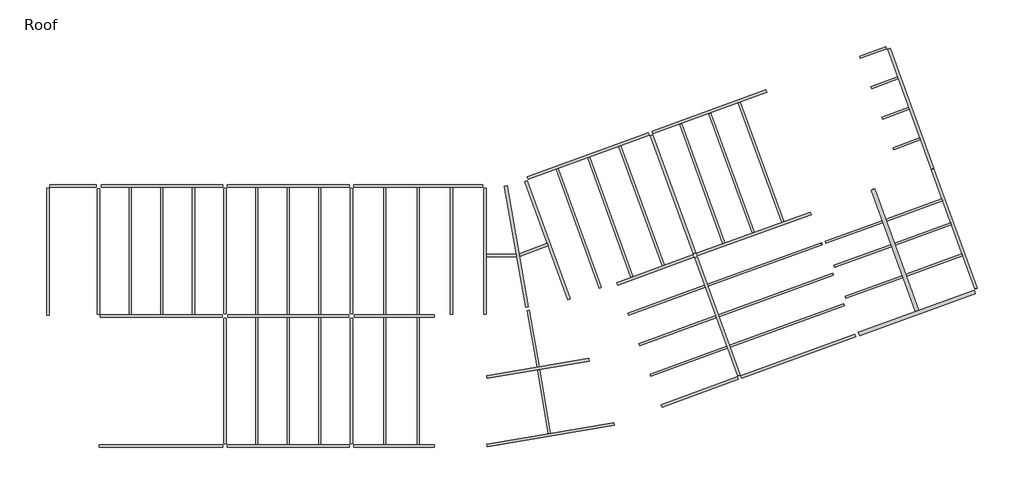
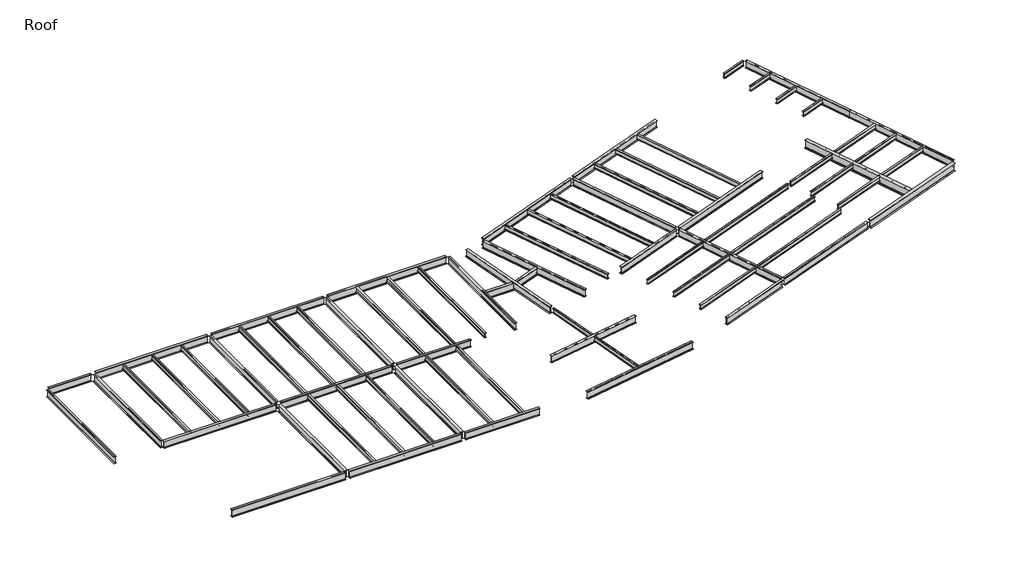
# One storey: 73 beams.
"""IFC4 building model written with IfcOpenShell, lengths in millimetres."""

from ifc_helpers import new_model, si_unit, origin, place, context, project, spatial, transform, mapped, element, save
from components import ub_universal_beams_ub305x127x37_f823aa85, ub_universal_beams_ub305x127x37_cdbcbb51, ub_universal_beams_ub305x127x37_8d1efc97, ub_universal_beams_ub305x127x37_2b7a043a, ub_universal_beams_ub305x127x37_8d2b0bf5, ub_universal_beams_ub305x127x37_16a75a32, ub_universal_beams_ub305x127x37_b9a7bbe5, ub_universal_beams_ub305x127x37_60794b88, ub_universal_beams_ub305x127x37_0c249d50, ub_universal_beams_ub305x127x37_5bb895c1, ub_universal_beams_ub305x127x37_83364cc9, ub_universal_beams_ub305x127x37_55dbae19, ub_universal_beams_ub457x152x67_de37d5a7, ub_universal_beams_ub457x152x67_a95554c7, ub_universal_beams_ub457x152x67_885cc86f, ub_universal_beams_ub457x152x67_c84566a2, ub_universal_beams_ub457x152x67_4841b023, ub_universal_beams_ub457x152x67_20791346, ub_universal_beams_ub457x152x67_59459dd6, ub_universal_beams_ub457x152x67_568b5c51, ub_universal_beams_ub457x152x67_feb0265b, ub_universal_beams_ub457x152x67_78ad538f, ub_universal_beams_ub457x152x67_801fcbf0, ub_universal_beams_ub457x152x67_7192e0ee, ub_universal_beams_ub457x152x67_e0a47d06, ub_universal_beams_ub457x152x67_f5dc209c, ub_universal_beams_ub457x152x67_f862a4b8, ub_universal_beams_ub457x152x67_7b4bcd9a, ub_universal_beams_ub457x152x67_43212cfb, ub_universal_beams_ub457x152x67_a9511354, ub_universal_beams_ub457x152x67_e915e172, ub_universal_beams_ub457x152x67_4370fdf8, ub_universal_beams_ub457x152x67_66b76362, ub_universal_beams_ub457x152x67_d54c9229, ub_universal_beams_ub457x152x67_7b3b5f84, ub_universal_beams_ub457x152x67_3b3b240f, ub_universal_beams_ub457x152x67_5d27a3bd, ub_universal_beams_ub457x152x67_54a4210b, ub_universal_beams_ub457x152x67_30e2d671, ub_universal_beams_ub533x210x82_8ec85ef7, ub_universal_beams_ub533x210x82_0fc11a2d

model = new_model("IFC4")

# Units and contexts
model_context = context("Model", 3, world=origin())
ifc_project = project(units=[si_unit("LENGTHUNIT", "METRE", prefix="MILLI")], contexts=[model_context])

# Site, building, storey
site = spatial("IfcSite", under=ifc_project)
building = spatial("IfcBuilding", under=site)
storey = spatial("IfcBuildingStorey", under=building, Name="Roof", Elevation=11700.0)

# Beams
placement = place(None, origin())
ub_universal_beams_ub305x127x37_shape = ub_universal_beams_ub305x127x37_f823aa85(model_context)
element("IfcBeam", 1, ObjectType="UB-Universal Beams : UB305x127x37", at=placement, inside=storey, context=model_context, shape_type="MappedRepresentation", body=[
    mapped(ub_universal_beams_ub305x127x37_shape, transform((9887.2000022, 11613.2000005, 11547.8), x_axis=(0.0, 1.0, 0.0), y_axis=(-1.0, 0.0, 0.0), z_axis=(0.0, 0.0, 1.0))),
])
element("IfcBeam", 2, ObjectType="UB-Universal Beams : UB305x127x37", at=placement, inside=storey, context=model_context, shape_type="MappedRepresentation", body=[
    mapped(ub_universal_beams_ub305x127x37_shape, transform((11712.2000022, 11613.2000005, 11547.8), x_axis=(0.0, 1.0, 0.0), y_axis=(-1.0, 0.0, 0.0), z_axis=(0.0, 0.0, 1.0))),
])
element("IfcBeam", 3, ObjectType="UB-Universal Beams : UB305x127x37", at=placement, inside=storey, context=model_context, shape_type="MappedRepresentation", body=[
    mapped(ub_universal_beams_ub305x127x37_shape, transform((13537.2000023, 11613.2000005, 11547.8), x_axis=(0.0, 1.0, 0.0), y_axis=(-1.0, 0.0, 0.0), z_axis=(0.0, 0.0, 1.0))),
])
element("IfcBeam", 4, ObjectType="UB-Universal Beams : UB305x127x37", at=placement, inside=storey, context=model_context, shape_type="MappedRepresentation", body=[
    mapped(ub_universal_beams_ub305x127x37_shape, transform((17187.2000023, 11613.2000005, 11547.8), x_axis=(0.0, 1.0, 0.0), y_axis=(-1.0, 0.0, 0.0), z_axis=(0.0, 0.0, 1.0))),
])
element("IfcBeam", 5, ObjectType="UB-Universal Beams : UB305x127x37", at=placement, inside=storey, context=model_context, shape_type="MappedRepresentation", body=[
    mapped(ub_universal_beams_ub305x127x37_shape, transform((19012.2000023, 11613.2000005, 11547.8), x_axis=(0.0, 1.0, 0.0), y_axis=(-1.0, 0.0, 0.0), z_axis=(0.0, 0.0, 1.0))),
])
element("IfcBeam", 6, ObjectType="UB-Universal Beams : UB305x127x37", at=placement, inside=storey, context=model_context, shape_type="MappedRepresentation", body=[
    mapped(ub_universal_beams_ub305x127x37_shape, transform((20837.2000022, 11613.2000005, 11547.8), x_axis=(0.0, 1.0, 0.0), y_axis=(-1.0, 0.0, 0.0), z_axis=(0.0, 0.0, 1.0))),
])
element("IfcBeam", 7, ObjectType="UB-Universal Beams : UB305x127x37", at=placement, inside=storey, context=model_context, shape_type="MappedRepresentation", body=[
    mapped(ub_universal_beams_ub305x127x37_shape, transform((24587.2000022, 11613.2000005, 11547.8), x_axis=(0.0, 1.0, 0.0), y_axis=(-1.0, 0.0, 0.0), z_axis=(0.0, 0.0, 1.0))),
])
element("IfcBeam", 8, ObjectType="UB-Universal Beams : UB305x127x37", at=placement, inside=storey, context=model_context, shape_type="MappedRepresentation", body=[
    mapped(ub_universal_beams_ub305x127x37_shape, transform((26512.2000022, 11613.2000005, 11547.8), x_axis=(0.0, 1.0, 0.0), y_axis=(-1.0, 0.0, 0.0), z_axis=(0.0, 0.0, 1.0))),
])
element("IfcBeam", 9, ObjectType="UB-Universal Beams : UB305x127x37", at=placement, inside=storey, context=model_context, shape_type="MappedRepresentation", body=[
    mapped(ub_universal_beams_ub305x127x37_shape, transform((17187.2000022, 4113.2000005, 11547.8), x_axis=(0.0, 1.0, 0.0), y_axis=(-1.0, 0.0, 0.0), z_axis=(0.0, 0.0, 1.0))),
])
element("IfcBeam", 10, ObjectType="UB-Universal Beams : UB305x127x37", at=placement, inside=storey, context=model_context, shape_type="MappedRepresentation", body=[
    mapped(ub_universal_beams_ub305x127x37_shape, transform((19012.2000022, 4113.2000005, 11547.8), x_axis=(0.0, 1.0, 0.0), y_axis=(-1.0, 0.0, 0.0), z_axis=(0.0, 0.0, 1.0))),
])
element("IfcBeam", 11, ObjectType="UB-Universal Beams : UB305x127x37", at=placement, inside=storey, context=model_context, shape_type="MappedRepresentation", body=[
    mapped(ub_universal_beams_ub305x127x37_shape, transform((20837.2000022, 4113.2000005, 11547.8), x_axis=(0.0, 1.0, 0.0), y_axis=(-1.0, 0.0, 0.0), z_axis=(0.0, 0.0, 1.0))),
])
element("IfcBeam", 12, ObjectType="UB-Universal Beams : UB305x127x37", at=placement, inside=storey, context=model_context, shape_type="MappedRepresentation", body=[
    mapped(ub_universal_beams_ub305x127x37_shape, transform((24587.2000022, 4113.2000004, 11547.8), x_axis=(0.0, 1.0, 0.0), y_axis=(-1.0, 0.0, 0.0), z_axis=(0.0, 0.0, 1.0))),
])
element("IfcBeam", 13, ObjectType="UB-Universal Beams : UB305x127x37", at=placement, inside=storey, context=model_context, shape_type="MappedRepresentation", body=[
    mapped(ub_universal_beams_ub305x127x37_shape, transform((26512.2000022, 4113.2000004, 11547.8), x_axis=(0.0, 1.0, 0.0), y_axis=(-1.0, 0.0, 0.0), z_axis=(0.0, 0.0, 1.0))),
])
element("IfcBeam", 14, ObjectType="UB-Universal Beams : UB305x127x37", at=placement, inside=storey, context=model_context, shape_type="MappedRepresentation", body=[
    mapped(ub_universal_beams_ub305x127x37_shape, transform((39409.0148654, 14226.6858637, 11547.8), x_axis=(0.34202014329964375, -0.9396926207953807, 0.0), y_axis=(0.9396926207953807, 0.34202014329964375, 0.0), z_axis=(0.0, 0.0, 1.0))),
])
element("IfcBeam", 15, ObjectType="UB-Universal Beams : UB305x127x37", at=placement, inside=storey, context=model_context, shape_type="MappedRepresentation", body=[
    mapped(ub_universal_beams_ub305x127x37_shape, transform((37600.1065704, 13568.2970878, 11547.8), x_axis=(0.34202014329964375, -0.9396926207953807, 0.0), y_axis=(0.9396926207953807, 0.34202014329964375, 0.0), z_axis=(0.0, 0.0, 1.0))),
])
element("IfcBeam", 16, ObjectType="UB-Universal Beams : UB305x127x37", at=placement, inside=storey, context=model_context, shape_type="MappedRepresentation", body=[
    mapped(ub_universal_beams_ub305x127x37_shape, transform((42915.2429568, 15502.8485233, 11547.8), x_axis=(-0.3420201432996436, 0.9396926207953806, 0.0), y_axis=(-0.9396926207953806, -0.3420201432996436, 0.0), z_axis=(0.0, 0.0, 1.0))),
])
element("IfcBeam", 17, ObjectType="UB-Universal Beams : UB305x127x37", at=placement, inside=storey, context=model_context, shape_type="MappedRepresentation", body=[
    mapped(ub_universal_beams_ub305x127x37_shape, transform((44612.5627531, 16120.6224071, 11547.8), x_axis=(-0.34202014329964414, 0.9396926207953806, 0.0), y_axis=(-0.9396926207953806, -0.34202014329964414, 0.0), z_axis=(0.0, 0.0, 1.0))),
])
element("IfcBeam", 18, ObjectType="UB-Universal Beams : UB305x127x37", at=placement, inside=storey, context=model_context, shape_type="MappedRepresentation", body=[
    mapped(ub_universal_beams_ub305x127x37_shape, transform((46309.8825494, 16738.396291, 11547.8), x_axis=(-0.34202014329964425, 0.9396926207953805, 0.0), y_axis=(-0.9396926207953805, -0.34202014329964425, 0.0), z_axis=(0.0, 0.0, 1.0))),
])
ub_universal_beams_ub305x127x37_2_shape = ub_universal_beams_ub305x127x37_cdbcbb51(model_context)
element("IfcBeam", 19, ObjectType="UB-Universal Beams : UB305x127x37", at=placement, inside=storey, context=model_context, shape_type="MappedRepresentation", body=[
    mapped(ub_universal_beams_ub305x127x37_2_shape, transform((28437.2000022, 11613.2000005, 11547.8), x_axis=(0.0, 1.0, 0.0), y_axis=(-1.0, 0.0, 0.0), z_axis=(0.0, 0.0, 1.0))),
])
ub_universal_beams_ub305x127x37_3_shape = ub_universal_beams_ub305x127x37_8d1efc97(model_context)
element("IfcBeam", 20, ObjectType="UB-Universal Beams : UB305x127x37", at=placement, inside=storey, context=model_context, shape_type="MappedRepresentation", body=[
    mapped(ub_universal_beams_ub305x127x37_3_shape, transform((35791.1982754, 12909.908312, 11547.8), x_axis=(0.3420201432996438, -0.9396926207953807, 0.0), y_axis=(0.9396926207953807, 0.3420201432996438, 0.0), z_axis=(0.0, 0.0, 1.0))),
])
ub_universal_beams_ub305x127x37_4_shape = ub_universal_beams_ub305x127x37_2b7a043a(model_context)
element("IfcBeam", 21, ObjectType="UB-Universal Beams : UB305x127x37", at=placement, inside=storey, context=model_context, shape_type="MappedRepresentation", body=[
    mapped(ub_universal_beams_ub305x127x37_4_shape, transform((42122.1150828, 5237.5069684, 11547.8), x_axis=(-0.939692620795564, -0.3420201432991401, 0.0), y_axis=(0.3420201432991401, -0.939692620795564, 0.0), z_axis=(0.0, 0.0, 1.0))),
])
element("IfcBeam", 22, ObjectType="UB-Universal Beams : UB305x127x37", at=placement, inside=storey, context=model_context, shape_type="MappedRepresentation", body=[
    mapped(ub_universal_beams_ub305x127x37_4_shape, transform((41480.8273141, 6999.4306323, 11547.8), x_axis=(-0.9396926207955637, -0.3420201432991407, 0.0), y_axis=(0.3420201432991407, -0.9396926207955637, 0.0), z_axis=(0.0, 0.0, 1.0))),
])
element("IfcBeam", 23, ObjectType="UB-Universal Beams : UB305x127x37", at=placement, inside=storey, context=model_context, shape_type="MappedRepresentation", body=[
    mapped(ub_universal_beams_ub305x127x37_4_shape, transform((40839.5395455, 8761.3542963, 11547.8), x_axis=(-0.939692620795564, -0.3420201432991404, 0.0), y_axis=(0.3420201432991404, -0.939692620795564, 0.0), z_axis=(0.0, 0.0, 1.0))),
])
ub_universal_beams_ub305x127x37_5_shape = ub_universal_beams_ub305x127x37_8d2b0bf5(model_context)
element("IfcBeam", 24, ObjectType="UB-Universal Beams : UB305x127x37", at=placement, inside=storey, context=model_context, shape_type="MappedRepresentation", body=[
    mapped(ub_universal_beams_ub305x127x37_5_shape, transform((46536.4260592, 10834.8514152, 11547.8), x_axis=(0.9396926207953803, 0.342020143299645, 0.0), y_axis=(-0.342020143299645, 0.9396926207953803, 0.0), z_axis=(0.0, 0.0, 1.0))),
])
element("IfcBeam", 25, ObjectType="UB-Universal Beams : UB305x127x37", at=placement, inside=storey, context=model_context, shape_type="MappedRepresentation", body=[
    mapped(ub_universal_beams_ub305x127x37_5_shape, transform((47177.7138279, 9072.9277512, 11547.8), x_axis=(0.93969262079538, 0.34202014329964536, 0.0), y_axis=(-0.34202014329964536, 0.93969262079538, 0.0), z_axis=(0.0, 0.0, 1.0))),
])
element("IfcBeam", 26, ObjectType="UB-Universal Beams : UB305x127x37", at=placement, inside=storey, context=model_context, shape_type="MappedRepresentation", body=[
    mapped(ub_universal_beams_ub305x127x37_5_shape, transform((47819.0015966, 7311.0040872, 11547.8), x_axis=(0.9396926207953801, 0.3420201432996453, 0.0), y_axis=(-0.3420201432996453, 0.9396926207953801, 0.0), z_axis=(0.0, 0.0, 1.0))),
])
ub_universal_beams_ub305x127x37_6_shape = ub_universal_beams_ub305x127x37_16a75a32(model_context)
element("IfcBeam", 27, ObjectType="UB-Universal Beams : UB305x127x37", at=placement, inside=storey, context=model_context, shape_type="MappedRepresentation", body=[
    mapped(ub_universal_beams_ub305x127x37_6_shape, transform((52185.7228693, 11321.365084, 11547.8), x_axis=(0.9396926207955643, 0.3420201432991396, 0.0), y_axis=(-0.3420201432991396, 0.9396926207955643, 0.0), z_axis=(0.0, 0.0, 1.0))),
])
element("IfcBeam", 28, ObjectType="UB-Universal Beams : UB305x127x37", at=placement, inside=storey, context=model_context, shape_type="MappedRepresentation", body=[
    mapped(ub_universal_beams_ub305x127x37_6_shape, transform((51681.2431579, 12707.4116997, 11547.8), x_axis=(0.9396926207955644, 0.34202014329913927, 0.0), y_axis=(-0.34202014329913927, 0.9396926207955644, 0.0), z_axis=(0.0, 0.0, 1.0))),
])
ub_universal_beams_ub305x127x37_7_shape = ub_universal_beams_ub305x127x37_b9a7bbe5(model_context)
element("IfcBeam", 29, ObjectType="UB-Universal Beams : UB305x127x37", at=placement, inside=storey, context=model_context, shape_type="MappedRepresentation", body=[
    mapped(ub_universal_beams_ub305x127x37_7_shape, transform((55650.8394085, 12582.5643624, 11547.8), x_axis=(0.939692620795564, 0.34202014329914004, 0.0), y_axis=(-0.34202014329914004, 0.939692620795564, 0.0), z_axis=(0.0, 0.0, 1.0))),
])
element("IfcBeam", 30, ObjectType="UB-Universal Beams : UB305x127x37", at=placement, inside=storey, context=model_context, shape_type="MappedRepresentation", body=[
    mapped(ub_universal_beams_ub305x127x37_7_shape, transform((56300.6776807, 10797.1483829, 11547.8), x_axis=(0.9396926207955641, 0.3420201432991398, 0.0), y_axis=(-0.3420201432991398, 0.9396926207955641, 0.0), z_axis=(0.0, 0.0, 1.0))),
])
element("IfcBeam", 31, ObjectType="UB-Universal Beams : UB305x127x37", at=placement, inside=storey, context=model_context, shape_type="MappedRepresentation", body=[
    mapped(ub_universal_beams_ub305x127x37_7_shape, transform((55146.3596971, 13968.6109781, 11547.8), x_axis=(0.9396926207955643, 0.34202014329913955, 0.0), y_axis=(-0.34202014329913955, 0.9396926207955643, 0.0), z_axis=(0.0, 0.0, 1.0))),
])
ub_universal_beams_ub305x127x37_8_shape = ub_universal_beams_ub305x127x37_60794b88(model_context)
element("IfcBeam", 32, ObjectType="UB-Universal Beams : UB305x127x37", at=placement, inside=storey, context=model_context, shape_type="MappedRepresentation", body=[
    mapped(ub_universal_beams_ub305x127x37_8_shape, transform((53431.3248942, 21325.7226526, 11547.8), x_axis=(-0.939692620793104, -0.34202014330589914, 0.0), y_axis=(0.34202014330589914, -0.939692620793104, 0.0), z_axis=(0.0, 0.0, 1.0))),
])
element("IfcBeam", 33, ObjectType="UB-Universal Beams : UB305x127x37", at=placement, inside=storey, context=model_context, shape_type="MappedRepresentation", body=[
    mapped(ub_universal_beams_ub305x127x37_8_shape, transform((54072.6126629, 19563.7989886, 11547.8), x_axis=(-0.939692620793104, -0.3420201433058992, 0.0), y_axis=(0.3420201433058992, -0.939692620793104, 0.0), z_axis=(0.0, 0.0, 1.0))),
])
element("IfcBeam", 34, ObjectType="UB-Universal Beams : UB305x127x37", at=placement, inside=storey, context=model_context, shape_type="MappedRepresentation", body=[
    mapped(ub_universal_beams_ub305x127x37_8_shape, transform((54713.9004316, 17801.8753247, 11547.8), x_axis=(-0.939692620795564, -0.34202014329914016, 0.0), y_axis=(0.34202014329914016, -0.939692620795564, 0.0), z_axis=(0.0, 0.0, 1.0))),
])
ub_universal_beams_ub305x127x37_9_shape = ub_universal_beams_ub305x127x37_0c249d50(model_context)
element("IfcBeam", 35, ObjectType="UB-Universal Beams : UB305x127x37", at=placement, inside=storey, context=model_context, shape_type="MappedRepresentation", body=[
    mapped(ub_universal_beams_ub305x127x37_9_shape, transform((52835.5611416, 9535.9491045, 11547.8), x_axis=(-0.9396926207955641, -0.34202014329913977, 0.0), y_axis=(0.34202014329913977, -0.9396926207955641, 0.0), z_axis=(0.0, 0.0, 1.0))),
])
ub_universal_beams_ub305x127x37_10_shape = ub_universal_beams_ub305x127x37_5bb895c1(model_context)
element("IfcBeam", 36, ObjectType="UB-Universal Beams : UB305x127x37", at=placement, inside=storey, context=model_context, shape_type="MappedRepresentation", body=[
    mapped(ub_universal_beams_ub305x127x37_10_shape, transform((52790.0371255, 23087.6463166, 11547.8), x_axis=(-0.939692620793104, -0.34202014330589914, 0.0), y_axis=(0.34202014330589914, -0.939692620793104, 0.0), z_axis=(0.0, 0.0, 1.0))),
])
ub_universal_beams_ub305x127x37_11_shape = ub_universal_beams_ub305x127x37_83364cc9(model_context)
element("IfcBeam", 37, ObjectType="UB-Universal Beams : UB305x127x37", at=placement, inside=storey, context=model_context, shape_type="MappedRepresentation", body=[
    mapped(ub_universal_beams_ub305x127x37_11_shape, transform((33777.5903073, 2919.2792248, 11547.8), x_axis=(-0.16767868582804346, 0.9858417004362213, 0.0), y_axis=(-0.9858417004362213, -0.16767868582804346, 0.0), z_axis=(0.0, 0.0, 1.0))),
])
ub_universal_beams_ub305x127x37_12_shape = ub_universal_beams_ub305x127x37_55dbae19(model_context)
element("IfcBeam", 38, ObjectType="UB-Universal Beams : UB305x127x37", at=placement, inside=storey, context=model_context, shape_type="MappedRepresentation", body=[
    mapped(ub_universal_beams_ub305x127x37_12_shape, transform((33147.2993723, 6561.7719088, 11547.8), x_axis=(-0.17364817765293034, 0.9848077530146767, 0.0), y_axis=(-0.9848077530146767, -0.17364817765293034, 0.0), z_axis=(0.0, 0.0, 1.0))),
])
ub_universal_beams_ub457x152x67_shape = ub_universal_beams_ub457x152x67_de37d5a7(model_context)
element("IfcBeam", 39, ObjectType="UB-Universal Beams : UB457x152x67", at=placement, inside=storey, context=model_context, shape_type="MappedRepresentation", body=[
    mapped(ub_universal_beams_ub457x152x67_shape, transform((26512.2000022, 15363.2000005, 11471.0), x_axis=(1.0, 0.0, 0.0), y_axis=(0.0, 1.0, 0.0), z_axis=(0.0, 0.0, 1.0))),
])
ub_universal_beams_ub457x152x67_2_shape = ub_universal_beams_ub457x152x67_a95554c7(model_context)
element("IfcBeam", 40, ObjectType="UB-Universal Beams : UB457x152x67", at=placement, inside=storey, context=model_context, shape_type="MappedRepresentation", body=[
    mapped(ub_universal_beams_ub457x152x67_2_shape, transform((19012.2000023, 15363.2000005, 11471.0), x_axis=(1.0, 0.0, 0.0), y_axis=(0.0, 1.0, 0.0), z_axis=(0.0, 0.0, 1.0))),
])
element("IfcBeam", 41, ObjectType="UB-Universal Beams : UB457x152x67", at=placement, inside=storey, context=model_context, shape_type="MappedRepresentation", body=[
    mapped(ub_universal_beams_ub457x152x67_2_shape, transform((19012.2000022, 363.2000005, 11471.0), x_axis=(1.0, 0.0, 0.0), y_axis=(0.0, 1.0, 0.0), z_axis=(0.0, 0.0, 1.0))),
])
ub_universal_beams_ub457x152x67_3_shape = ub_universal_beams_ub457x152x67_885cc86f(model_context)
element("IfcBeam", 42, ObjectType="UB-Universal Beams : UB457x152x67", at=placement, inside=storey, context=model_context, shape_type="MappedRepresentation", body=[
    mapped(ub_universal_beams_ub457x152x67_3_shape, transform((11674.7000023, 363.2000005, 11471.0), x_axis=(-1.0, 0.0, 0.0), y_axis=(0.0, -1.0, 0.0), z_axis=(0.0, 0.0, 1.0))),
])
ub_universal_beams_ub457x152x67_4_shape = ub_universal_beams_ub457x152x67_c84566a2(model_context)
element("IfcBeam", 43, ObjectType="UB-Universal Beams : UB457x152x67", at=placement, inside=storey, context=model_context, shape_type="MappedRepresentation", body=[
    mapped(ub_universal_beams_ub457x152x67_4_shape, transform((19012.2000023, 7863.2000004, 11471.0), x_axis=(1.0, 0.0, 0.0), y_axis=(0.0, 1.0, 0.0), z_axis=(0.0, 0.0, 1.0))),
])
ub_universal_beams_ub457x152x67_5_shape = ub_universal_beams_ub457x152x67_4841b023(model_context)
element("IfcBeam", 44, ObjectType="UB-Universal Beams : UB457x152x67", at=placement, inside=storey, context=model_context, shape_type="MappedRepresentation", body=[
    mapped(ub_universal_beams_ub457x152x67_5_shape, transform((25112.2000025, 7863.2000004, 11471.0), x_axis=(1.0, 0.0, 0.0), y_axis=(0.0, 1.0, 0.0), z_axis=(0.0, 0.0, 1.0))),
])
ub_universal_beams_ub457x152x67_6_shape = ub_universal_beams_ub457x152x67_20791346(model_context)
element("IfcBeam", 45, ObjectType="UB-Universal Beams : UB457x152x67", at=placement, inside=storey, context=model_context, shape_type="MappedRepresentation", body=[
    mapped(ub_universal_beams_ub457x152x67_6_shape, transform((25112.2000025, 363.2000005, 11471.0), x_axis=(1.0, 0.0, 0.0), y_axis=(0.0, 1.0, 0.0), z_axis=(0.0, 0.0, 1.0))),
])
ub_universal_beams_ub457x152x67_7_shape = ub_universal_beams_ub457x152x67_59459dd6(model_context)
element("IfcBeam", 46, ObjectType="UB-Universal Beams : UB457x152x67", at=placement, inside=storey, context=model_context, shape_type="MappedRepresentation", body=[
    mapped(ub_universal_beams_ub457x152x67_7_shape, transform((15362.2000023, 4113.2000005, 11471.0), x_axis=(0.0, 1.0, 0.0), y_axis=(-1.0, 0.0, 0.0), z_axis=(0.0, 0.0, 1.0))),
])
element("IfcBeam", 47, ObjectType="UB-Universal Beams : UB457x152x67", at=placement, inside=storey, context=model_context, shape_type="MappedRepresentation", body=[
    mapped(ub_universal_beams_ub457x152x67_7_shape, transform((22662.2000022, 4113.2000005, 11471.0), x_axis=(0.0, 1.0, 0.0), y_axis=(-1.0, 0.0, 0.0), z_axis=(0.0, 0.0, 1.0))),
])
ub_universal_beams_ub457x152x67_8_shape = ub_universal_beams_ub457x152x67_568b5c51(model_context)
element("IfcBeam", 48, ObjectType="UB-Universal Beams : UB457x152x67", at=placement, inside=storey, context=model_context, shape_type="MappedRepresentation", body=[
    mapped(ub_universal_beams_ub457x152x67_8_shape, transform((15362.2000023, 11613.2000005, 11471.0), x_axis=(0.0, 1.0, 0.0), y_axis=(-1.0, 0.0, 0.0), z_axis=(0.0, 0.0, 1.0))),
])
element("IfcBeam", 49, ObjectType="UB-Universal Beams : UB457x152x67", at=placement, inside=storey, context=model_context, shape_type="MappedRepresentation", body=[
    mapped(ub_universal_beams_ub457x152x67_8_shape, transform((22662.2000022, 11613.2000005, 11471.0), x_axis=(0.0, 1.0, 0.0), y_axis=(-1.0, 0.0, 0.0), z_axis=(0.0, 0.0, 1.0))),
])
ub_universal_beams_ub457x152x67_9_shape = ub_universal_beams_ub457x152x67_feb0265b(model_context)
element("IfcBeam", 50, ObjectType="UB-Universal Beams : UB457x152x67", at=placement, inside=storey, context=model_context, shape_type="MappedRepresentation", body=[
    mapped(ub_universal_beams_ub457x152x67_9_shape, transform((32191.7898055, 11821.5156209, 11471.0), x_axis=(0.173648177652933, -0.9848077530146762, 0.0), y_axis=(0.9848077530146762, 0.173648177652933, 0.0), z_axis=(0.0, 0.0, 1.0))),
])
ub_universal_beams_ub457x152x67_10_shape = ub_universal_beams_ub457x152x67_78ad538f(model_context)
element("IfcBeam", 51, ObjectType="UB-Universal Beams : UB457x152x67", at=placement, inside=storey, context=model_context, shape_type="MappedRepresentation", body=[
    mapped(ub_universal_beams_ub457x152x67_10_shape, transform((31317.5755278, 11361.2273115, 11471.0), x_axis=(1.0, 0.0, 0.0), y_axis=(0.0, 1.0, 0.0), z_axis=(0.0, 0.0, 1.0))),
])
ub_universal_beams_ub457x152x67_11_shape = ub_universal_beams_ub457x152x67_801fcbf0(model_context)
element("IfcBeam", 52, ObjectType="UB-Universal Beams : UB457x152x67", at=placement, inside=storey, context=model_context, shape_type="MappedRepresentation", body=[
    mapped(ub_universal_beams_ub457x152x67_11_shape, transform((33170.7103845, 11687.9849855, 11471.0), x_axis=(0.9396926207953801, 0.3420201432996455, 0.0), y_axis=(-0.3420201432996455, 0.9396926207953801, 0.0), z_axis=(0.0, 0.0, 1.0))),
])
ub_universal_beams_ub457x152x67_12_shape = ub_universal_beams_ub457x152x67_7192e0ee(model_context)
element("IfcBeam", 53, ObjectType="UB-Universal Beams : UB457x152x67", at=placement, inside=storey, context=model_context, shape_type="MappedRepresentation", body=[
    mapped(ub_universal_beams_ub457x152x67_12_shape, transform((43329.9872158, 19644.4697351, 11471.0), x_axis=(0.9396926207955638, 0.3420201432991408, 0.0), y_axis=(-0.3420201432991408, 0.9396926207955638, 0.0), z_axis=(0.0, 0.0, 1.0))),
])
element("IfcBeam", 54, ObjectType="UB-Universal Beams : UB457x152x67", at=placement, inside=storey, context=model_context, shape_type="MappedRepresentation", body=[
    mapped(ub_universal_beams_ub457x152x67_12_shape, transform((45895.1382905, 12596.7750792, 11471.0), x_axis=(0.9396926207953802, 0.34202014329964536, 0.0), y_axis=(-0.34202014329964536, 0.9396926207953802, 0.0), z_axis=(0.0, 0.0, 1.0))),
])
element("IfcBeam", 55, ObjectType="UB-Universal Beams : UB457x152x67", at=placement, inside=storey, context=model_context, shape_type="MappedRepresentation", body=[
    mapped(ub_universal_beams_ub457x152x67_12_shape, transform((48460.2893652, 5549.0804232, 11471.0), x_axis=(0.9396926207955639, 0.3420201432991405, 0.0), y_axis=(-0.3420201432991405, 0.9396926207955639, 0.0), z_axis=(0.0, 0.0, 1.0))),
])
ub_universal_beams_ub457x152x67_13_shape = ub_universal_beams_ub457x152x67_e0a47d06(model_context)
element("IfcBeam", 56, ObjectType="UB-Universal Beams : UB457x152x67", at=placement, inside=storey, context=model_context, shape_type="MappedRepresentation", body=[
    mapped(ub_universal_beams_ub457x152x67_13_shape, transform((40198.2517768, 10523.2779603, 11471.0), x_axis=(0.9396926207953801, 0.34202014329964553, 0.0), y_axis=(-0.34202014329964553, 0.9396926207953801, 0.0), z_axis=(0.0, 0.0, 1.0))),
])
ub_universal_beams_ub457x152x67_14_shape = ub_universal_beams_ub457x152x67_f5dc209c(model_context)
element("IfcBeam", 57, ObjectType="UB-Universal Beams : UB457x152x67", at=placement, inside=storey, context=model_context, shape_type="MappedRepresentation", body=[
    mapped(ub_universal_beams_ub457x152x67_14_shape, transform((41217.9231605, 14885.0746394, 11471.0), x_axis=(-0.3420201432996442, 0.9396926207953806, 0.0), y_axis=(-0.9396926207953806, -0.3420201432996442, 0.0), z_axis=(0.0, 0.0, 1.0))),
])
element("IfcBeam", 58, ObjectType="UB-Universal Beams : UB457x152x67", at=placement, inside=storey, context=model_context, shape_type="MappedRepresentation", body=[
    mapped(ub_universal_beams_ub457x152x67_14_shape, transform((43783.0742352, 7837.3799835, 11471.0), x_axis=(-0.3420201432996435, 0.939692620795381, 0.0), y_axis=(-0.939692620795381, -0.3420201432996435, 0.0), z_axis=(0.0, 0.0, 1.0))),
])
ub_universal_beams_ub457x152x67_15_shape = ub_universal_beams_ub457x152x67_f862a4b8(model_context)
element("IfcBeam", 59, ObjectType="UB-Universal Beams : UB457x152x67", at=placement, inside=storey, context=model_context, shape_type="MappedRepresentation", body=[
    mapped(ub_universal_beams_ub457x152x67_15_shape, transform((42763.4028515, 3475.5833044, 11471.0), x_axis=(-0.9396926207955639, -0.34202014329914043, 0.0), y_axis=(0.34202014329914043, -0.9396926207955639, 0.0), z_axis=(0.0, 0.0, 1.0))),
])
ub_universal_beams_ub457x152x67_16_shape = ub_universal_beams_ub457x152x67_7b4bcd9a(model_context)
element("IfcBeam", 60, ObjectType="UB-Universal Beams : UB457x152x67", at=placement, inside=storey, context=model_context, shape_type="MappedRepresentation", body=[
    mapped(ub_universal_beams_ub457x152x67_16_shape, transform((54937.4354241, 19878.5687316, 11471.0), x_axis=(-0.3420201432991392, 0.9396926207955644, 0.0), y_axis=(-0.9396926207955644, -0.3420201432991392, 0.0), z_axis=(0.0, 0.0, 1.0))),
])
ub_universal_beams_ub457x152x67_17_shape = ub_universal_beams_ub457x152x67_43212cfb(model_context)
element("IfcBeam", 61, ObjectType="UB-Universal Beams : UB457x152x67", at=placement, inside=storey, context=model_context, shape_type="MappedRepresentation", body=[
    mapped(ub_universal_beams_ub457x152x67_17_shape, transform((57502.5864988, 12830.8740757, 11471.0), x_axis=(0.3420201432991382, -0.9396926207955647, 0.0), y_axis=(0.9396926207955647, 0.3420201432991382, 0.0), z_axis=(0.0, 0.0, 1.0))),
])
ub_universal_beams_ub457x152x67_18_shape = ub_universal_beams_ub457x152x67_a9511354(model_context)
element("IfcBeam", 62, ObjectType="UB-Universal Beams : UB457x152x67", at=placement, inside=storey, context=model_context, shape_type="MappedRepresentation", body=[
    mapped(ub_universal_beams_ub457x152x67_18_shape, transform((5131.8666692, 11575.7000004, 11471.0), x_axis=(0.0, -1.0, 0.0), y_axis=(1.0, 0.0, 0.0), z_axis=(0.0, 0.0, 1.0))),
])
ub_universal_beams_ub457x152x67_19_shape = ub_universal_beams_ub457x152x67_e915e172(model_context)
element("IfcBeam", 63, ObjectType="UB-Universal Beams : UB457x152x67", at=placement, inside=storey, context=model_context, shape_type="MappedRepresentation", body=[
    mapped(ub_universal_beams_ub457x152x67_19_shape, transform((11712.2000023, 15363.2000005, 11471.0), x_axis=(1.0, 0.0, 0.0), y_axis=(0.0, 1.0, 0.0), z_axis=(0.0, 0.0, 1.0))),
])
ub_universal_beams_ub457x152x67_20_shape = ub_universal_beams_ub457x152x67_4370fdf8(model_context)
element("IfcBeam", 64, ObjectType="UB-Universal Beams : UB457x152x67", at=placement, inside=storey, context=model_context, shape_type="MappedRepresentation", body=[
    mapped(ub_universal_beams_ub457x152x67_20_shape, transform((6543.0666692, 15363.2000005, 11471.0), x_axis=(1.0, 0.0, 0.0), y_axis=(0.0, 1.0, 0.0), z_axis=(0.0, 0.0, 1.0))),
])
ub_universal_beams_ub457x152x67_21_shape = ub_universal_beams_ub457x152x67_66b76362(model_context)
element("IfcBeam", 65, ObjectType="UB-Universal Beams : UB457x152x67", at=placement, inside=storey, context=model_context, shape_type="MappedRepresentation", body=[
    mapped(ub_universal_beams_ub457x152x67_21_shape, transform((34104.0944675, 999.6469535, 11471.0), x_axis=(0.985841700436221, 0.1676786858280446, 0.0), y_axis=(-0.1676786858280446, 0.985841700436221, 0.0), z_axis=(0.0, 0.0, 1.0))),
])
ub_universal_beams_ub457x152x67_22_shape = ub_universal_beams_ub457x152x67_d54c9229(model_context)
element("IfcBeam", 66, ObjectType="UB-Universal Beams : UB457x152x67", at=placement, inside=storey, context=model_context, shape_type="MappedRepresentation", body=[
    mapped(ub_universal_beams_ub457x152x67_22_shape, transform((33427.1029223, 4834.8322654, 11471.0), x_axis=(0.9858417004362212, 0.1676786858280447, 0.0), y_axis=(-0.1676786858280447, 0.9858417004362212, 0.0), z_axis=(0.0, 0.0, 1.0))),
])
ub_universal_beams_ub457x152x67_23_shape = ub_universal_beams_ub457x152x67_7b3b5f84(model_context)
element("IfcBeam", 67, ObjectType="UB-Universal Beams : UB457x152x67", at=placement, inside=storey, context=model_context, shape_type="MappedRepresentation", body=[
    mapped(ub_universal_beams_ub457x152x67_23_shape, transform((11712.2000022, 7863.2000004, 11471.0), x_axis=(-1.0, 0.0, 0.0), y_axis=(0.0, -1.0, 0.0), z_axis=(0.0, 0.0, 1.0))),
])
ub_universal_beams_ub457x152x67_24_shape = ub_universal_beams_ub457x152x67_3b3b240f(model_context)
element("IfcBeam", 68, ObjectType="UB-Universal Beams : UB457x152x67", at=placement, inside=storey, context=model_context, shape_type="MappedRepresentation", body=[
    mapped(ub_universal_beams_ub457x152x67_24_shape, transform((8062.2000022, 11613.2000005, 11471.0), x_axis=(0.0, 1.0, 0.0), y_axis=(-1.0, 0.0, 0.0), z_axis=(0.0, 0.0, 1.0))),
])
ub_universal_beams_ub457x152x67_25_shape = ub_universal_beams_ub457x152x67_5d27a3bd(model_context)
element("IfcBeam", 69, ObjectType="UB-Universal Beams : UB457x152x67", at=placement, inside=storey, context=model_context, shape_type="MappedRepresentation", body=[
    mapped(ub_universal_beams_ub457x152x67_25_shape, transform((30362.2000022, 11613.2000005, 11471.0), x_axis=(0.0, 1.0, 0.0), y_axis=(-1.0, 0.0, 0.0), z_axis=(0.0, 0.0, 1.0))),
])
ub_universal_beams_ub457x152x67_26_shape = ub_universal_beams_ub457x152x67_54a4210b(model_context)
element("IfcBeam", 70, ObjectType="UB-Universal Beams : UB457x152x67", at=placement, inside=storey, context=model_context, shape_type="MappedRepresentation", body=[
    mapped(ub_universal_beams_ub457x152x67_26_shape, transform((33982.2899804, 12251.5195361, 11471.0), x_axis=(0.3420201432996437, -0.9396926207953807, 0.0), y_axis=(0.9396926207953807, 0.3420201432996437, 0.0), z_axis=(0.0, 0.0, 1.0))),
])
ub_universal_beams_ub457x152x67_27_shape = ub_universal_beams_ub457x152x67_30e2d671(model_context)
element("IfcBeam", 71, ObjectType="UB-Universal Beams : UB457x152x67", at=placement, inside=storey, context=model_context, shape_type="MappedRepresentation", body=[
    mapped(ub_universal_beams_ub457x152x67_27_shape, transform((36317.5310328, 17092.1444158, 11471.0), x_axis=(0.9396926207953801, 0.3420201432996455, 0.0), y_axis=(-0.3420201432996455, 0.9396926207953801, 0.0), z_axis=(0.0, 0.0, 1.0))),
])
ub_universal_beams_ub533x210x82_shape = ub_universal_beams_ub533x210x82_8ec85ef7(model_context)
element("IfcBeam", 72, ObjectType="UB-Universal Beams : UB533x210x82", at=placement, inside=storey, context=model_context, shape_type="MappedRepresentation", body=[
    mapped(ub_universal_beams_ub533x210x82_shape, transform((54042.3541451, 11665.8982726, 11435.85), x_axis=(-0.34202014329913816, 0.9396926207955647, 0.0), y_axis=(-0.9396926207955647, -0.34202014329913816, 0.0), z_axis=(0.0, 0.0, 1.0))),
])
ub_universal_beams_ub533x210x82_2_shape = ub_universal_beams_ub533x210x82_0fc11a2d(model_context)
element("IfcBeam", 73, ObjectType="UB-Universal Beams : UB533x210x82", at=placement, inside=storey, context=model_context, shape_type="MappedRepresentation", body=[
    mapped(ub_universal_beams_ub533x210x82_2_shape, transform((55320.045497, 8045.8274693, 11435.85), x_axis=(0.9396926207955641, 0.3420201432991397, 0.0), y_axis=(-0.3420201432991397, 0.9396926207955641, 0.0), z_axis=(0.0, 0.0, 1.0))),
])

save(model, "model.ifc")
